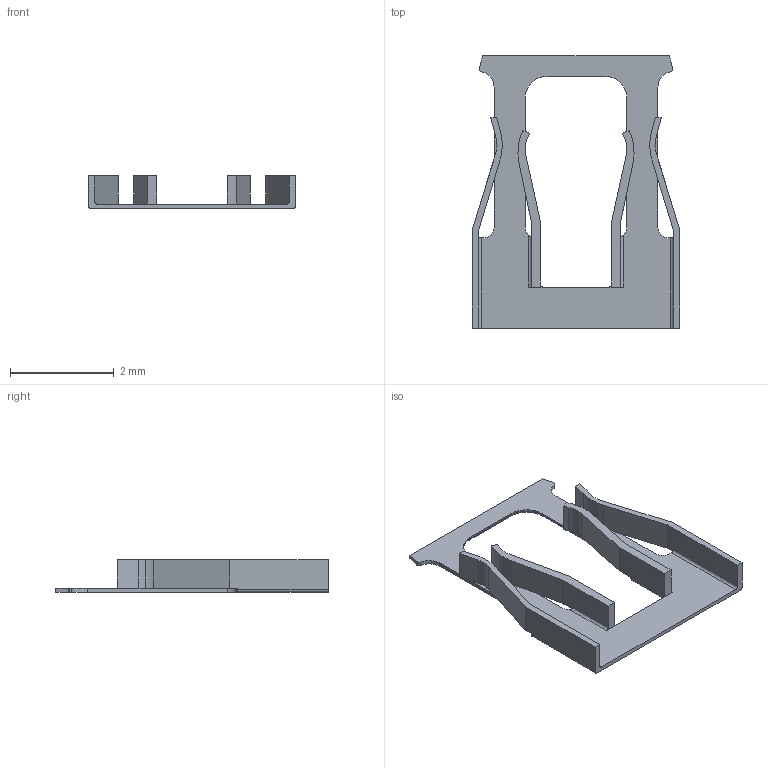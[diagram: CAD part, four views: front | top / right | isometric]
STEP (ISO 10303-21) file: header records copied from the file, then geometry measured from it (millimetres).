
FILE_DESCRIPTION (( 'STEP AP214' ), '1' );
FILE_NAME ('Shunt.step', '2025-12-23T16:04:41', ( '' ), ( '' ), 'SwSTEP 2.0', 'SolidWorks 2026', '' );
FILE_SCHEMA (( 'AUTOMOTIVE_DESIGN' ));
Length unit declared in the file: inch
Products named in the file (2): Shunt; _ _C02SXGN-RC1_Shunt
Assembly tree (2 placements, depth 2):
  Shunt
    _ _C02SXGN-RC1_Shunt  x2
Bounding box: 3.99 x 5.24 x 0.63 mm (x, y, z)
Volume: 3.9 mm3; surface area: 83.7 mm2
Topology: 2 solids, 2 shells, 220 faces, 632 edges, 396 vertices
Faces by surface type: plane 120, cylinder 84, torus 12, sphere 4
Entity records: 3675 total; most frequent: CARTESIAN_POINT 657, DIRECTION 636, ORIENTED_EDGE 628, EDGE_CURVE 314, LINE 218, VECTOR 218, AXIS2_PLACEMENT_3D 209, VERTEX_POINT 198
